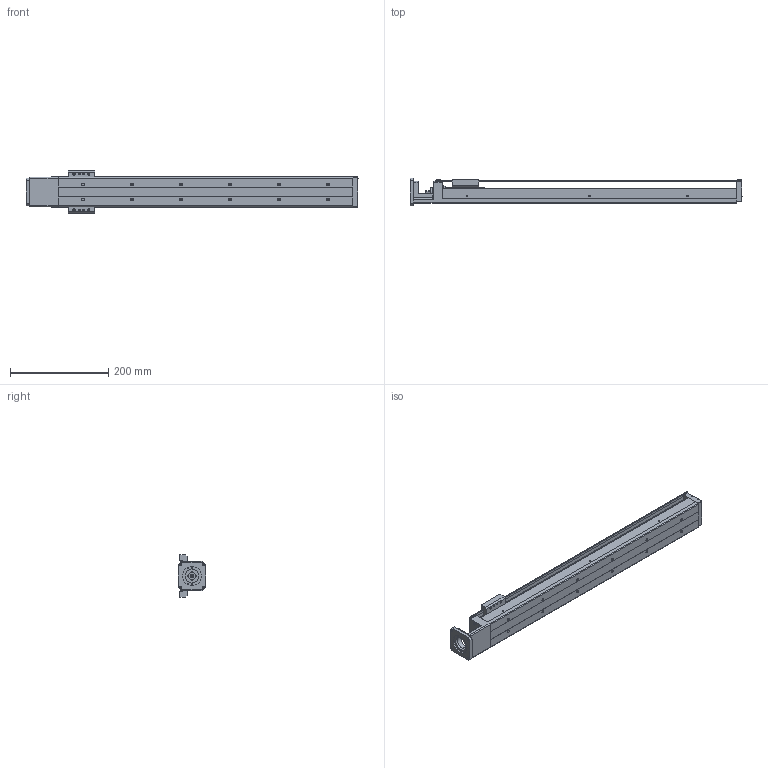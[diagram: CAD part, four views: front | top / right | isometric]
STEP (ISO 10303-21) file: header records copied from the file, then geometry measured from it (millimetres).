
FILE_DESCRIPTION (( 'STEP AP203' ), '1' );
FILE_NAME ('PA-33-600-23X.STEP', '2010-06-10T15:16:49', ( 'render' ), ( '' ), 'SwSTEP 2.0', 'SolidWorks 2009', '' );
FILE_SCHEMA (( 'CONFIG_CONTROL_DESIGN' ));
Length unit declared in the file: millimetre
Products named in the file (1): PA-33-600-23X
Bounding box: 677 x 56.4 x 86 mm (x, y, z)
Volume: 846275.5 mm3; surface area: 303934.5 mm2
Topology: 5 solids, 6 shells, 744 faces, 1909 edges, 1192 vertices
Faces by surface type: plane 301, cylinder 251, cone 170, bspline 22
Entity records: 22957 total; most frequent: CARTESIAN_POINT 4556, DIRECTION 3938, ORIENTED_EDGE 3734, EDGE_CURVE 1867, AXIS2_PLACEMENT_3D 1410, VERTEX_POINT 1192, VECTOR 1118, LINE 1118
